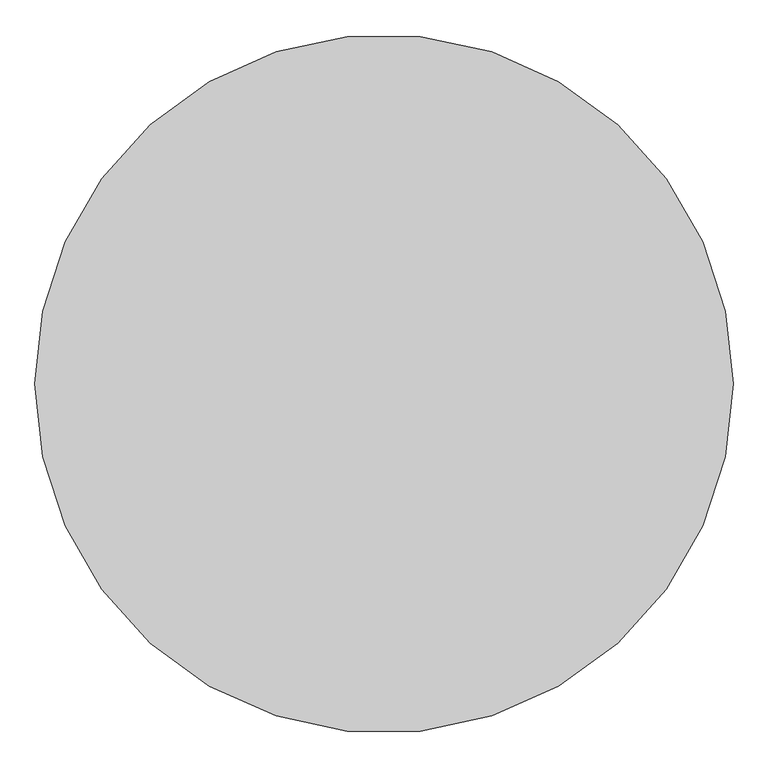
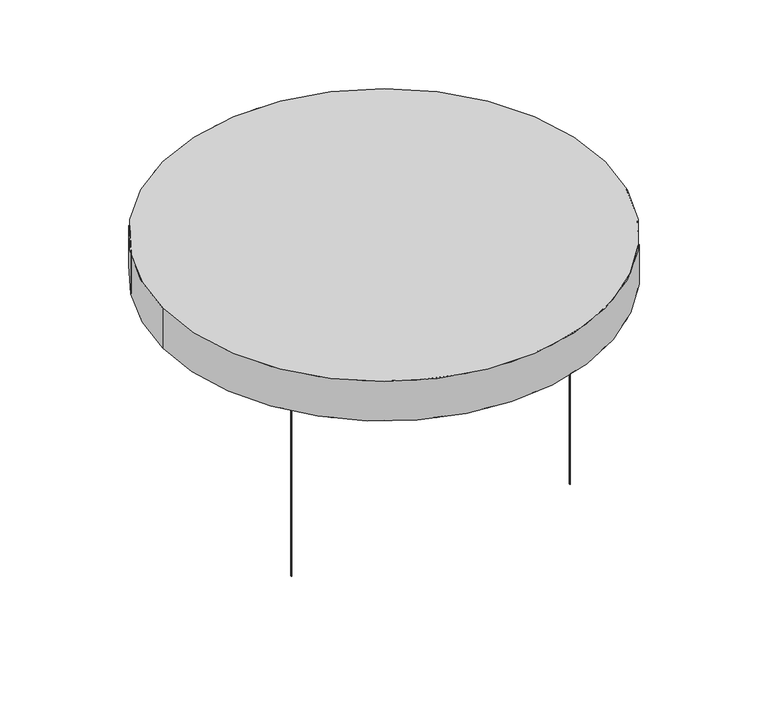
"""IFC4 building model written with IfcOpenShell, lengths in millimetres: proxy geometry, Texaa_Coussin_Abso_Ronds_Suspendus_plafond : ø 1000x95."""

from ifc_helpers import new_model, si_unit, point, frame, frame_2d, origin, origin_with_axes, origin_2d, place, context, project, spatial, polyline, circle_curve, trimmed, segment, composite_curve, outline, extrude, source, transform, mapped, element, save
from ifc_brep_helpers import plane_surface, cylinder_surface, revolved_surface, advanced_brep


def generic_models_2c8e060e(model_context):
    return source(origin(), model_context, "Body", "SolidModel", [
        extrude(outline(composite_curve([segment(trimmed(circle_curve(origin_2d(), 499.0), [point((-499.0, 0.0))], [point((499.0, 0.0))], False, "CARTESIAN"), True, "CONTINUOUS"), segment(trimmed(circle_curve(origin_2d(), 499.0), [point((499.0, 0.0))], [point((-499.0, 0.0))], False, "CARTESIAN"), True, "CONTINUOUS")], self_intersect=False)), frame((0.0, 0.0, 501.0), z_axis=(0.0, 0.0, 1.0), x_axis=(1.0, 0.0, 0.0)), (0.0, 0.0, 1.0), 93.0),
        advanced_brep(
        [(-500.0, 0.0, 595.0), (500.0, 0.0, 595.0), (-500.0, 0.0, 500.0), (500.0, 0.0, 500.0), (-450.0, 0.0, 500.0), (450.0, 0.0, 500.0), (-499.0, 0.0, 594.0), (499.0, 0.0, 594.0), (-499.0, 0.0, 501.0), (499.0, 0.0, 501.0), (450.0, 0.0, 501.0), (-450.0, 0.0, 501.0)],
        [
            (0, 1, circle_curve(frame((0.0, 0.0, 595.0), z_axis=(0.0, 0.0, 1.0), x_axis=(1.0, 0.0, 0.0)), 500.0)),
            (1, 0, circle_curve(frame((0.0, 0.0, 595.0), z_axis=(0.0, 0.0, 1.0), x_axis=(1.0, 0.0, 0.0)), 500.0)),
            (2, 3, circle_curve(frame((0.0, 0.0, 500.0), z_axis=(0.0, 0.0, -1.0), x_axis=(1.0, 0.0, 0.0)), 500.0)),
            (3, 2, circle_curve(frame((0.0, 0.0, 500.0), z_axis=(0.0, 0.0, -1.0), x_axis=(1.0, 0.0, 0.0)), 500.0)),
            (4, 5, circle_curve(frame((0.0, 0.0, 500.0), z_axis=(0.0, 0.0, 1.0), x_axis=(1.0, 0.0, 0.0)), 450.0)),
            (5, 4, circle_curve(frame((0.0, 0.0, 500.0), z_axis=(0.0, 0.0, 1.0), x_axis=(1.0, 0.0, 0.0)), 450.0)),
            (1, 3),
            (2, 0),
            (6, 7, circle_curve(frame((0.0, 0.0, 594.0), z_axis=(0.0, 0.0, -1.0), x_axis=(1.0, 0.0, 0.0)), 499.0)),
            (7, 6, circle_curve(frame((0.0, 0.0, 594.0), z_axis=(0.0, 0.0, -1.0), x_axis=(1.0, 0.0, 0.0)), 499.0)),
            (8, 9, circle_curve(frame((0.0, 0.0, 501.0), z_axis=(0.0, 0.0, 1.0), x_axis=(1.0, 0.0, 0.0)), 499.0)),
            (9, 8, circle_curve(frame((0.0, 0.0, 501.0), z_axis=(0.0, 0.0, 1.0), x_axis=(1.0, 0.0, 0.0)), 499.0)),
            (10, 11, circle_curve(frame((0.0, 0.0, 501.0), z_axis=(0.0, 0.0, -1.0), x_axis=(1.0, 0.0, 0.0)), 450.0)),
            (11, 10, circle_curve(frame((0.0, 0.0, 501.0), z_axis=(0.0, 0.0, -1.0), x_axis=(1.0, 0.0, 0.0)), 450.0)),
            (6, 8),
            (9, 7),
            (11, 4),
            (5, 10),
        ],
        [
            plane_surface(frame((500.0, 0.0, 595.0), z_axis=(0.0, 0.0, 1.0), x_axis=(0.0, -1.0, 0.0))),
            plane_surface(frame((500.0, 0.0, 500.0), z_axis=(0.0, 0.0, -1.0), x_axis=(0.0, 1.0, 0.0))),
            cylinder_surface(frame((0.0, 0.0, 500.0), z_axis=(0.0, 0.0, 1.0), x_axis=(1.0, 0.0, 0.0)), 500.0),
            plane_surface(frame((499.0, 0.0, 594.0), z_axis=(0.0, 0.0, -1.0), x_axis=(0.0, -1.0, 0.0))),
            plane_surface(frame((499.0, 0.0, 501.0), z_axis=(0.0, 0.0, 1.0), x_axis=(0.0, 1.0, 0.0))),
            revolved_surface(polyline([(499.0, 0.0, 594.0), (499.0, 0.0, 501.0)]), (0.0, 0.0, 501.0), (0.0, 0.0, 1.0)),
            revolved_surface(polyline([(450.0, 0.0, 501.0), (450.0, 0.0, 500.0)]), (0.0, 0.0, 500.0), (0.0, 0.0, 1.0)),
        ],
        [
            (0, [[1, 2]]),
            (1, [[3, 4], [5, 6]]),
            (2, [[7, -3, 8, -2]]),
            (2, [[-8, -4, -7, -1]]),
            (3, [[9, 10]]),
            (4, [[11, 12], [13, 14]]),
            (5, [[15, -12, 16, -9]]),
            (5, [[-16, -11, -15, -10]]),
            (6, [[-14, 17, -6, 18]]),
            (6, [[-5, -17, -13, -18]]),
        ],
    ),
        extrude(outline(composite_curve([segment(trimmed(circle_curve(frame_2d((0.0, 363.7306696)), 1.0), [point((-1.0, 363.7306696))], [point((1.0, 363.7306696))], False, "CARTESIAN"), True, "CONTINUOUS"), segment(trimmed(circle_curve(frame_2d((0.0, 363.7306696)), 1.0), [point((1.0, 363.7306696))], [point((-1.0, 363.7306696))], False, "CARTESIAN"), True, "CONTINUOUS")], self_intersect=False)), origin_with_axes(), (0.0, 0.0, 1.0), 500.0),
        extrude(outline(composite_curve([segment(trimmed(circle_curve(frame_2d((315.0, -181.8653348)), 1.0), [point((314.0, -181.8653348))], [point((316.0, -181.8653348))], False, "CARTESIAN"), True, "CONTINUOUS"), segment(trimmed(circle_curve(frame_2d((315.0, -181.8653348)), 1.0), [point((316.0, -181.8653348))], [point((314.0, -181.8653348))], False, "CARTESIAN"), True, "CONTINUOUS")], self_intersect=False)), origin_with_axes(), (0.0, 0.0, 1.0), 500.0),
        extrude(outline(composite_curve([segment(trimmed(circle_curve(frame_2d((-314.0, -181.8653348)), 1.0), [point((-315.0, -181.8653348))], [point((-313.0, -181.8653348))], False, "CARTESIAN"), True, "CONTINUOUS"), segment(trimmed(circle_curve(frame_2d((-314.0, -181.8653348)), 1.0), [point((-313.0, -181.8653348))], [point((-315.0, -181.8653348))], False, "CARTESIAN"), True, "CONTINUOUS")], self_intersect=False)), origin_with_axes(), (0.0, 0.0, 1.0), 500.0),
    ])


if __name__ == "__main__":
    model = new_model("IFC4")
    model_context = context("Model", 3, world=origin())
    ifc_project = project(units=[si_unit("LENGTHUNIT", "METRE", prefix="MILLI")], contexts=[model_context])
    site = spatial("IfcSite", under=ifc_project)
    building = spatial("IfcBuilding", under=site)
    placement = place(None, origin())
    generic_models_shape = generic_models_2c8e060e(model_context)
    element("IfcBuildingElementProxy", 1, Name="Texaa_Coussin_Abso_Ronds_Suspendus_plafond : ø 1000x95", ObjectType="Texaa_Coussin_Abso_Ronds_Suspendus_plafond : ø 1000x95", at=placement, inside=building, context=model_context, shape_type="MappedRepresentation", body=[
        mapped(generic_models_shape, transform((0.0, 0.0, 0.0), x_axis=(1.0, 0.0, 0.0), y_axis=(0.0, 1.0, 0.0), z_axis=(0.0, 0.0, 1.0))),
    ])
    save(model, "model.ifc")
